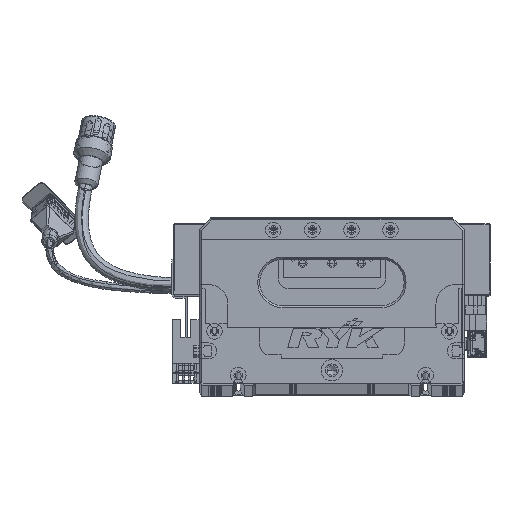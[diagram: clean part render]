
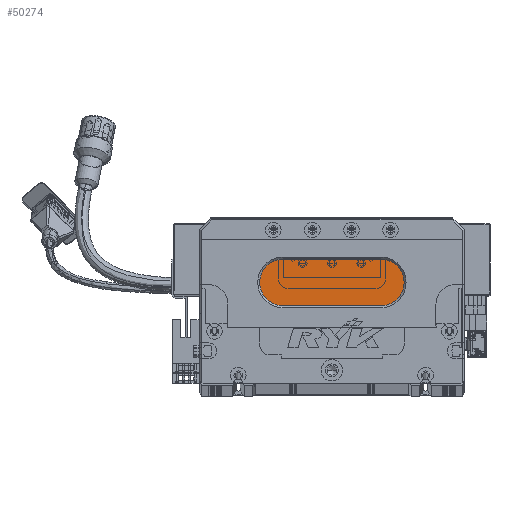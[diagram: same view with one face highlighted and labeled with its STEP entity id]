
A CAD part, top view. The second image highlights one B-rep face of the part: STEP entity #50274.
In plain terms, the highlighted planar face has unit normal (0, 0, 1) as drawn and (0, 0, -1) by its records, which use the part's own axes.
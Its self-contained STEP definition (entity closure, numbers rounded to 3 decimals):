
#2024 = VERTEX_POINT ( 'NONE', #149488 ) ;
#6250 = CARTESIAN_POINT ( 'NONE',  ( 31., 52., 13. ) ) ;
#8681 = EDGE_CURVE ( 'NONE', #2024, #135159, #150548, .T. ) ;
#9800 = CARTESIAN_POINT ( 'NONE',  ( 93., 40., 13. ) ) ;
#13347 = DIRECTION ( 'NONE',  ( -1., 0., 0. ) ) ;
#15463 = AXIS2_PLACEMENT_3D ( 'NONE', #122748, #110495, #134464 ) ;
#28475 = VECTOR ( 'NONE', #106371, 1000. ) ;
#28490 = VERTEX_POINT ( 'NONE', #9800 ) ;
#28531 = DIRECTION ( 'NONE',  ( -1., 0., 0. ) ) ;
#29304 = VECTOR ( 'NONE', #28531, 1000. ) ;
#30511 = CARTESIAN_POINT ( 'NONE',  ( 93., 40., 13. ) ) ;
#31082 = FACE_OUTER_BOUND ( 'NONE', #147887, .T. ) ;
#31084 = VERTEX_POINT ( 'NONE', #117271 ) ;
#38115 = CARTESIAN_POINT ( 'NONE',  ( 93., 64., 13. ) ) ;
#38527 = DIRECTION ( 'NONE',  ( -1., 0., 0. ) ) ;
#50274 = ADVANCED_FACE ( 'NONE', ( #31082 ), #88019, .T. ) ;
#53522 = CIRCLE ( 'NONE', #71204, 12. ) ;
#55880 = DIRECTION ( 'NONE',  ( -1., 0., 0. ) ) ;
#58349 = AXIS2_PLACEMENT_3D ( 'NONE', #89987, #78792, #55880 ) ;
#60259 = LINE ( 'NONE', #30511, #29304 ) ;
#61964 = CARTESIAN_POINT ( 'NONE',  ( 93., 52., 13. ) ) ;
#69428 = EDGE_CURVE ( 'NONE', #135159, #28490, #53522, .T. ) ;
#71204 = AXIS2_PLACEMENT_3D ( 'NONE', #61964, #75155, #38527 ) ;
#75155 = DIRECTION ( 'NONE',  ( 0., 0., -1. ) ) ;
#78388 = ORIENTED_EDGE ( 'NONE', *, *, #125538, .T. ) ;
#78792 = DIRECTION ( 'NONE',  ( 0., 0., -1. ) ) ;
#86075 = CIRCLE ( 'NONE', #112506, 12. ) ;
#86141 = VERTEX_POINT ( 'NONE', #6250 ) ;
#88019 = PLANE ( 'NONE',  #15463 ) ;
#89987 = CARTESIAN_POINT ( 'NONE',  ( 43., 52., 13. ) ) ;
#90343 = EDGE_CURVE ( 'NONE', #31084, #86141, #86075, .T. ) ;
#93291 = DIRECTION ( 'NONE',  ( 0., 0., -1. ) ) ;
#93629 = ORIENTED_EDGE ( 'NONE', *, *, #8681, .T. ) ;
#97003 = ORIENTED_EDGE ( 'NONE', *, *, #90343, .T. ) ;
#102642 = CIRCLE ( 'NONE', #58349, 12. ) ;
#106371 = DIRECTION ( 'NONE',  ( 1., 0., 0. ) ) ;
#110495 = DIRECTION ( 'NONE',  ( 0., 0., -1. ) ) ;
#112506 = AXIS2_PLACEMENT_3D ( 'NONE', #117746, #93291, #13347 ) ;
#117271 = CARTESIAN_POINT ( 'NONE',  ( 43., 40., 13. ) ) ;
#117746 = CARTESIAN_POINT ( 'NONE',  ( 43., 52., 13. ) ) ;
#119368 = CARTESIAN_POINT ( 'NONE',  ( 93., 64., 13. ) ) ;
#122748 = CARTESIAN_POINT ( 'NONE',  ( 93., 52., 13. ) ) ;
#125538 = EDGE_CURVE ( 'NONE', #28490, #31084, #60259, .T. ) ;
#129839 = EDGE_CURVE ( 'NONE', #86141, #2024, #102642, .T. ) ;
#130390 = ORIENTED_EDGE ( 'NONE', *, *, #69428, .T. ) ;
#134464 = DIRECTION ( 'NONE',  ( -1., 0., 0. ) ) ;
#135159 = VERTEX_POINT ( 'NONE', #119368 ) ;
#144137 = ORIENTED_EDGE ( 'NONE', *, *, #129839, .T. ) ;
#147887 = EDGE_LOOP ( 'NONE', ( #130390, #78388, #97003, #144137, #93629 ) ) ;
#149488 = CARTESIAN_POINT ( 'NONE',  ( 43., 64., 13. ) ) ;
#150548 = LINE ( 'NONE', #38115, #28475 ) ;
